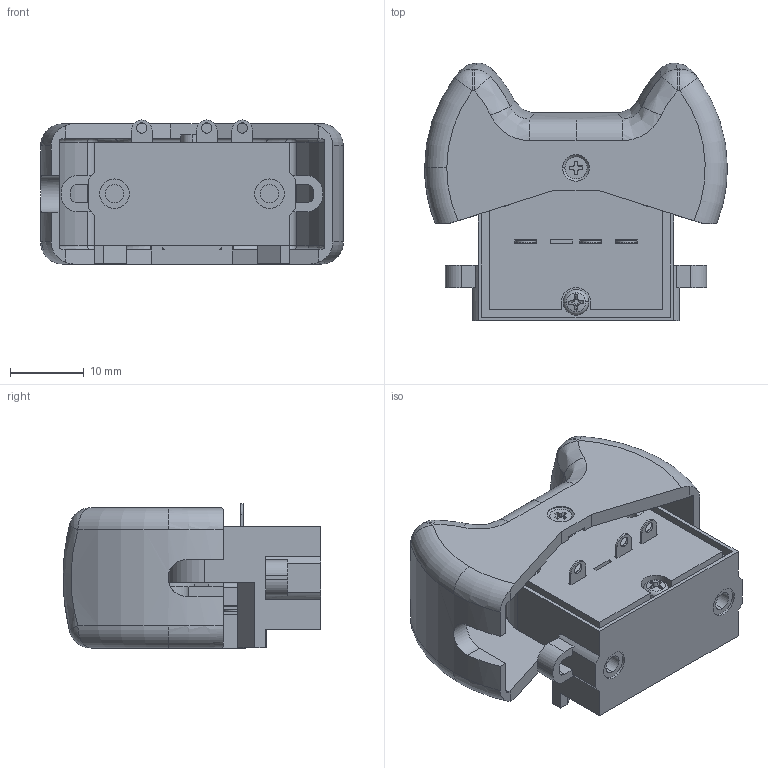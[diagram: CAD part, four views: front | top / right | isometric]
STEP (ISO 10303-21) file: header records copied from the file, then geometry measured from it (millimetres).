
FILE_DESCRIPTION (( 'STEP AP214' ), '1' );
FILE_NAME ('12905890060 SFCP30A.STEP', '2019-06-07T06:26:55', ( '' ), ( '' ), 'SwSTEP 2.0', 'SolidWorks 2018', '' );
FILE_SCHEMA (( 'AUTOMOTIVE_DESIGN' ));
Length unit declared in the file: millimetre
Products named in the file (1): 12905890060 SFCP30A
Bounding box: 41 x 34.92 x 19.52 mm (x, y, z)
Volume: 8437.3 mm3; surface area: 10437.4 mm2
Topology: 1 solids, 11 shells, 633 faces, 1676 edges, 1074 vertices
Faces by surface type: plane 317, cylinder 214, cone 42, torus 28, bspline 22, sphere 10
Entity records: 20853 total; most frequent: CARTESIAN_POINT 4764, DIRECTION 3389, ORIENTED_EDGE 3332, EDGE_CURVE 1666, AXIS2_PLACEMENT_3D 1185, VERTEX_POINT 1074, VECTOR 1019, LINE 1019
